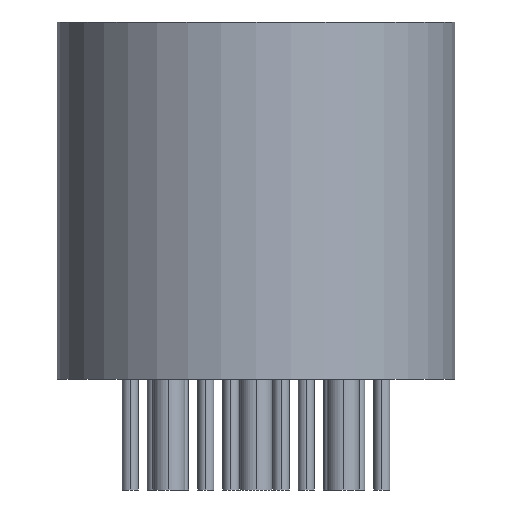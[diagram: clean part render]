
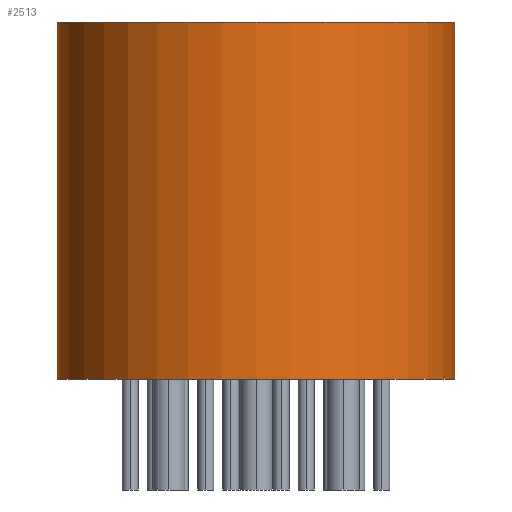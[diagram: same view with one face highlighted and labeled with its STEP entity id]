
A CAD part, front view. The second image highlights one B-rep face of the part: STEP entity #2513.
In plain terms, the highlighted cylindrical face has radius 5.016 mm (diameter 10.033 mm), a partial arc.
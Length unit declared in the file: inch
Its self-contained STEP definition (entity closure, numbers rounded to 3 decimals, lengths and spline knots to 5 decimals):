
#713 = VERTEX_POINT ( 'NONE', #7527 ) ;
#757 = CARTESIAN_POINT ( 'NONE',  ( 0.1975, 0., 0.355 ) ) ;
#1411 = LINE ( 'NONE', #757, #2456 ) ;
#1471 = VERTEX_POINT ( 'NONE', #5614 ) ;
#1733 = VERTEX_POINT ( 'NONE', #8226 ) ;
#1745 = ORIENTED_EDGE ( 'NONE', *, *, #6691, .T. ) ;
#1934 = EDGE_CURVE ( 'NONE', #2367, #1471, #1411, .T. ) ;
#2003 = DIRECTION ( 'NONE',  ( 0., 0., -1. ) ) ;
#2131 = CIRCLE ( 'NONE', #2239, 0.1975 ) ;
#2239 = AXIS2_PLACEMENT_3D ( 'NONE', #6290, #2420, #7628 ) ;
#2367 = VERTEX_POINT ( 'NONE', #5907 ) ;
#2420 = DIRECTION ( 'NONE',  ( 0., 0., 1. ) ) ;
#2456 = VECTOR ( 'NONE', #6000, 39.37008 ) ;
#2513 = ADVANCED_FACE ( 'NONE', ( #4293 ), #7862, .T. ) ;
#2750 = CIRCLE ( 'NONE', #4502, 0.1975 ) ;
#2962 = LINE ( 'NONE', #3976, #5981 ) ;
#3007 = EDGE_LOOP ( 'NONE', ( #5560, #7168, #6649, #1745 ) ) ;
#3031 = CARTESIAN_POINT ( 'NONE',  ( 0., 0., 0.355 ) ) ;
#3944 = EDGE_CURVE ( 'NONE', #1733, #713, #2962, .T. ) ;
#3976 = CARTESIAN_POINT ( 'NONE',  ( -0.1975, 0., 0.355 ) ) ;
#4293 = FACE_OUTER_BOUND ( 'NONE', #3007, .T. ) ;
#4502 = AXIS2_PLACEMENT_3D ( 'NONE', #3031, #8238, #6379 ) ;
#4547 = AXIS2_PLACEMENT_3D ( 'NONE', #7469, #6059, #5477 ) ;
#5477 = DIRECTION ( 'NONE',  ( -1., 0., 0. ) ) ;
#5560 = ORIENTED_EDGE ( 'NONE', *, *, #1934, .F. ) ;
#5614 = CARTESIAN_POINT ( 'NONE',  ( 0.1975, 0., 0. ) ) ;
#5907 = CARTESIAN_POINT ( 'NONE',  ( 0.1975, 0., 0.355 ) ) ;
#5981 = VECTOR ( 'NONE', #2003, 39.37008 ) ;
#6000 = DIRECTION ( 'NONE',  ( 0., 0., -1. ) ) ;
#6059 = DIRECTION ( 'NONE',  ( 0., 0., -1. ) ) ;
#6290 = CARTESIAN_POINT ( 'NONE',  ( 0., 0., 0. ) ) ;
#6379 = DIRECTION ( 'NONE',  ( 1., 0., 0. ) ) ;
#6649 = ORIENTED_EDGE ( 'NONE', *, *, #3944, .T. ) ;
#6691 = EDGE_CURVE ( 'NONE', #713, #1471, #2131, .T. ) ;
#7168 = ORIENTED_EDGE ( 'NONE', *, *, #7317, .F. ) ;
#7317 = EDGE_CURVE ( 'NONE', #1733, #2367, #2750, .T. ) ;
#7469 = CARTESIAN_POINT ( 'NONE',  ( 0., 0., 0.355 ) ) ;
#7527 = CARTESIAN_POINT ( 'NONE',  ( -0.1975, 0., 0. ) ) ;
#7628 = DIRECTION ( 'NONE',  ( 1., 0., 0. ) ) ;
#7862 = CYLINDRICAL_SURFACE ( 'NONE', #4547, 0.1975 ) ;
#8226 = CARTESIAN_POINT ( 'NONE',  ( -0.1975, 0., 0.355 ) ) ;
#8238 = DIRECTION ( 'NONE',  ( 0., 0., 1. ) ) ;
